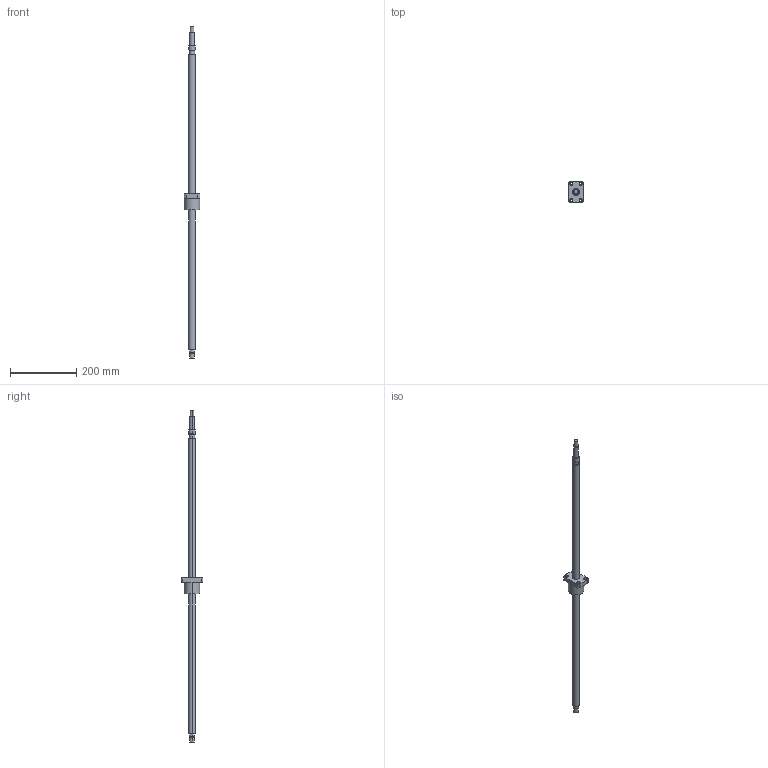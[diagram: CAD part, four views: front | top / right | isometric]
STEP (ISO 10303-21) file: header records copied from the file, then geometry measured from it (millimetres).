
FILE_DESCRIPTION((''),'2;1');
FILE_NAME('R20-10K3-FSC-889-999','2008-04-03T',('wcwu'),(''),'PRO/ENGINEER BY PARAMETRIC TECHNOLOGY CORPORATION, 2005070','PRO/ENGINEER BY PARAMETRIC TECHNOLOGY CORPORATION, 2005070','');
FILE_SCHEMA(('CONFIG_CONTROL_DESIGN'));
Length unit declared in the file: millimetre
Products named in the file (1): R20-10K3-FSC-889-999
Bounding box: 46 x 66 x 999 mm (x, y, z)
Volume: 378143.2 mm3; surface area: 73256.5 mm2
Topology: 1 solids, 1 shells, 65 faces, 146 edges, 96 vertices
Faces by surface type: cylinder 40, plane 25
Entity records: 1906 total; most frequent: DIRECTION 360, CARTESIAN_POINT 307, ORIENTED_EDGE 292, AXIS2_PLACEMENT_3D 149, EDGE_CURVE 146, VERTEX_POINT 96, EDGE_LOOP 86, CIRCLE 84
